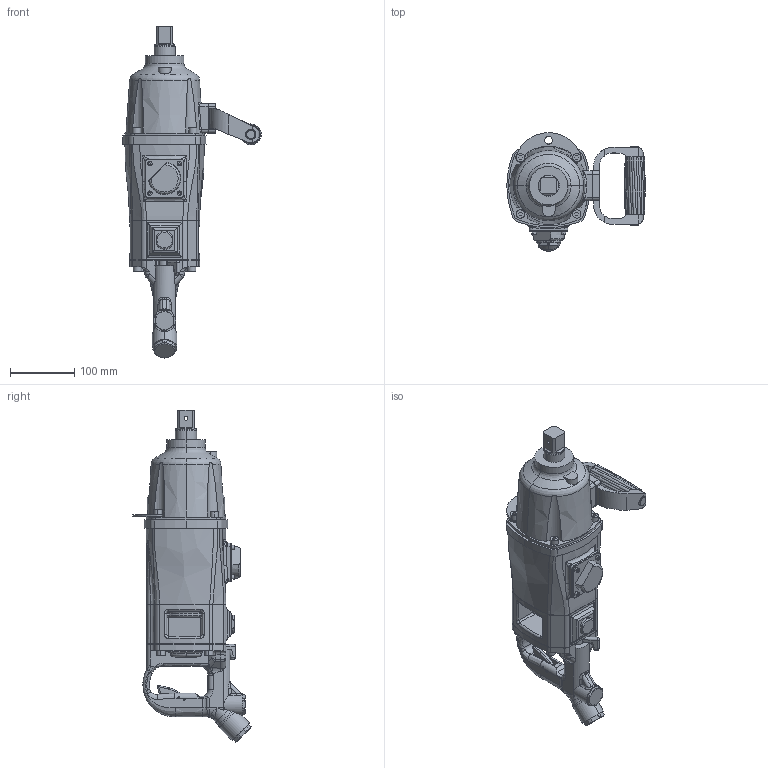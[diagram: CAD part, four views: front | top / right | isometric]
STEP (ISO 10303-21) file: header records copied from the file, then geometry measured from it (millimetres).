
FILE_DESCRIPTION (( 'STEP AP214' ), '1' );
FILE_NAME ('UXR-T3000S(IN).STEP', '2006-09-06T06:19:48', ( '' ), ( '' ), 'SwSTEP 2.0', 'SolidWorks 2004073', '' );
FILE_SCHEMA (( 'AUTOMOTIVE_DESIGN' ));
Length unit declared in the file: millimetre
Products named in the file (8): 1754393_UXR-T3000S(OUT)_蹬怮椔; 1753192_UXR-T3000S(OUT)_蹬怮椔; 1700260_UXR-T3000S(OUT)_蹬怮椔; 1750252_UXR-T3000S(OUT)_蹬怮椔; 1750102_UXR-T3000S(IN)_蹬怮椔; UXR-T3000S(IN); 0851071_蹬怮椔; 1032120_UXR-T3000S(OUT)_蹬怮椔
Assembly tree (7 placements, depth 2):
  UXR-T3000S(IN)
    1750252_UXR-T3000S(OUT)_蹬怮椔
    0851071_蹬怮椔
    1753192_UXR-T3000S(OUT)_蹬怮椔
    1754393_UXR-T3000S(OUT)_蹬怮椔
    1032120_UXR-T3000S(OUT)_蹬怮椔
    1750102_UXR-T3000S(IN)_蹬怮椔
    1700260_UXR-T3000S(OUT)_蹬怮椔
Bounding box: 215.15 x 183.73 x 516.14 mm (x, y, z)
Volume: 4154122.1 mm3; surface area: 335740.9 mm2
Topology: 7 solids, 7 shells, 1143 faces, 3011 edges, 1922 vertices
Faces by surface type: plane 409, cylinder 375, bspline 280, torus 48, sphere 16, cone 15
Entity records: 114693 total; most frequent: CARTESIAN_POINT 84093, ORIENTED_EDGE 5982, DIRECTION 4555, EDGE_CURVE 2991, VERTEX_POINT 1919, AXIS2_PLACEMENT_3D 1650, VECTOR 1255, LINE 1255
